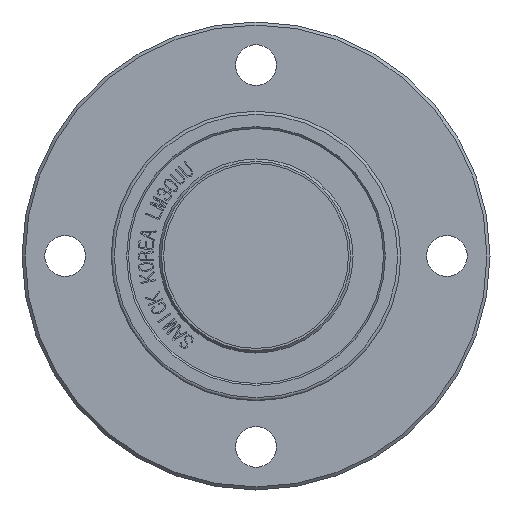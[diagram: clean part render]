
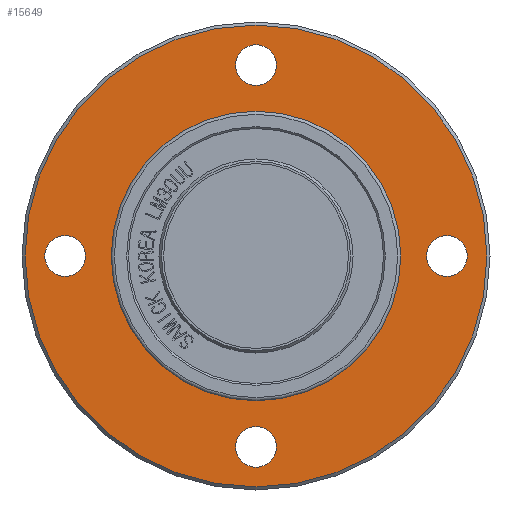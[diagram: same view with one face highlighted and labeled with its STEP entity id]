
A CAD part, front view. The second image highlights one B-rep face of the part: STEP entity #15649.
In plain terms, the highlighted planar face has unit normal (0, -1, 0).
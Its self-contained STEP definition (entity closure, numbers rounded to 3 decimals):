
#4555=FACE_BOUND('',#5496,.T.);
#4556=FACE_BOUND('',#5497,.T.);
#4557=FACE_BOUND('',#5498,.T.);
#4558=FACE_BOUND('',#5499,.T.);
#4559=FACE_BOUND('',#5500,.T.);
#4630=FACE_OUTER_BOUND('',#5495,.T.);
#5495=EDGE_LOOP('',(#10612,#10613));
#5496=EDGE_LOOP('',(#10614));
#5497=EDGE_LOOP('',(#10615));
#5498=EDGE_LOOP('',(#10616));
#5499=EDGE_LOOP('',(#10617));
#5500=EDGE_LOOP('',(#10618,#10619));
#6406=CIRCLE('',#16523,3.3);
#6412=CIRCLE('',#16532,3.3);
#6418=CIRCLE('',#16541,3.3);
#6424=CIRCLE('',#16550,3.3);
#6431=CIRCLE('',#16560,37.5);
#6432=CIRCLE('',#16561,37.5);
#6433=CIRCLE('',#16563,23.5);
#6434=CIRCLE('',#16564,23.5);
#6480=VERTEX_POINT('',#18618);
#6486=VERTEX_POINT('',#18635);
#6492=VERTEX_POINT('',#18652);
#6498=VERTEX_POINT('',#18669);
#6505=VERTEX_POINT('',#18689);
#6506=VERTEX_POINT('',#18690);
#6507=VERTEX_POINT('',#18695);
#6508=VERTEX_POINT('',#18696);
#8114=EDGE_CURVE('',#6480,#6480,#6406,.T.);
#8122=EDGE_CURVE('',#6486,#6486,#6412,.T.);
#8130=EDGE_CURVE('',#6492,#6492,#6418,.T.);
#8138=EDGE_CURVE('',#6498,#6498,#6424,.T.);
#8147=EDGE_CURVE('',#6505,#6506,#6431,.T.);
#8148=EDGE_CURVE('',#6506,#6505,#6432,.T.);
#8150=EDGE_CURVE('',#6507,#6508,#6433,.T.);
#8151=EDGE_CURVE('',#6508,#6507,#6434,.T.);
#10612=ORIENTED_EDGE('',*,*,#8147,.T.);
#10613=ORIENTED_EDGE('',*,*,#8148,.T.);
#10614=ORIENTED_EDGE('',*,*,#8114,.T.);
#10615=ORIENTED_EDGE('',*,*,#8122,.T.);
#10616=ORIENTED_EDGE('',*,*,#8130,.T.);
#10617=ORIENTED_EDGE('',*,*,#8138,.T.);
#10618=ORIENTED_EDGE('',*,*,#8150,.F.);
#10619=ORIENTED_EDGE('',*,*,#8151,.F.);
#15416=PLANE('',#16562);
#15649=ADVANCED_FACE('',(#4630,#4555,#4556,#4557,#4558,#4559),#15416,.T.);
#16523=AXIS2_PLACEMENT_3D('',#18620,#16854,#16855);
#16532=AXIS2_PLACEMENT_3D('',#18637,#16874,#16875);
#16541=AXIS2_PLACEMENT_3D('',#18654,#16894,#16895);
#16550=AXIS2_PLACEMENT_3D('',#18671,#16914,#16915);
#16560=AXIS2_PLACEMENT_3D('',#18691,#16936,#16937);
#16561=AXIS2_PLACEMENT_3D('',#18692,#16938,#16939);
#16562=AXIS2_PLACEMENT_3D('',#18694,#16941,#16942);
#16563=AXIS2_PLACEMENT_3D('',#18697,#16943,#16944);
#16564=AXIS2_PLACEMENT_3D('',#18698,#16945,#16946);
#16854=DIRECTION('center_axis',(0.,1.,0.));
#16855=DIRECTION('ref_axis',(0.,0.,
1.));
#16874=DIRECTION('center_axis',(0.,1.,0.));
#16875=DIRECTION('ref_axis',(-1.,0.,0.));
#16894=DIRECTION('center_axis',(0.,1.,0.));
#16895=DIRECTION('ref_axis',(0.,0.,
-1.));
#16914=DIRECTION('center_axis',(0.,1.,0.));
#16915=DIRECTION('ref_axis',(1.,0.,0.));
#16936=DIRECTION('center_axis',(0.,-1.,0.));
#16937=DIRECTION('ref_axis',(1.,0.,0.));
#16938=DIRECTION('center_axis',(0.,-1.,0.));
#16939=DIRECTION('ref_axis',(1.,0.,0.));
#16941=DIRECTION('center_axis',(0.,-1.,0.));
#16942=DIRECTION('ref_axis',(0.,0.,-1.));
#16943=DIRECTION('center_axis',(0.,-1.,0.));
#16944=DIRECTION('ref_axis',(1.,0.,0.));
#16945=DIRECTION('center_axis',(0.,-1.,0.));
#16946=DIRECTION('ref_axis',(1.,0.,0.));
#18618=CARTESIAN_POINT('',(0.,24.,27.7));
#18620=CARTESIAN_POINT('Origin',(0.,24.,31.));
#18635=CARTESIAN_POINT('',(-27.7,24.,0.));
#18637=CARTESIAN_POINT('Origin',(-31.,24.,0.));
#18652=CARTESIAN_POINT('',(0.,24.,-27.7));
#18654=CARTESIAN_POINT('Origin',(0.,24.,-31.));
#18669=CARTESIAN_POINT('',(27.7,24.,0.));
#18671=CARTESIAN_POINT('Origin',(31.,24.,0.));
#18689=CARTESIAN_POINT('',(37.5,24.,0.));
#18690=CARTESIAN_POINT('',(-37.5,24.,0.));
#18691=CARTESIAN_POINT('Origin',(0.,24.,0.));
#18692=CARTESIAN_POINT('Origin',(0.,24.,0.));
#18694=CARTESIAN_POINT('Origin',(23.5,24.,0.));
#18695=CARTESIAN_POINT('',(23.5,24.,0.));
#18696=CARTESIAN_POINT('',(-23.5,24.,0.));
#18697=CARTESIAN_POINT('Origin',(0.,24.,0.));
#18698=CARTESIAN_POINT('Origin',(0.,24.,0.));
